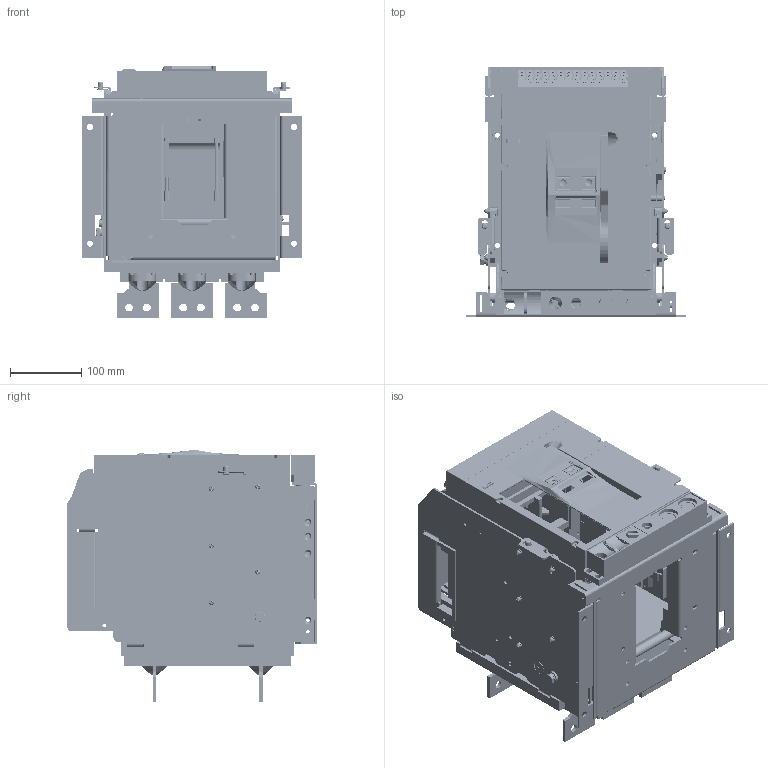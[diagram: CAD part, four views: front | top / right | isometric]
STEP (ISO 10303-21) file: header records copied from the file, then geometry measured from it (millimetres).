
FILE_DESCRIPTION((''),'2;1');
FILE_NAME('NA8G-1600-630-DO-3P-H_ASM','2019-05-21T16:51:32',('lcc'),(''),'CREO PARAMETRIC BY PTC INC, 2018020','CREO PARAMETRIC BY PTC INC, 2018020','');
FILE_SCHEMA(('CONFIG_CONTROL_DESIGN','SHAPE_APPEARANCE_LAYERS_GROUPS'));
Products named in the file (56): 8-024-504; 8-300-164; 8-141-125; 8-860-349; 8-441-081; 8-200-099; 8-236-064; 5-203-058_ASM; 8-145-063; 8-211-092; 5-024-172_ASM; 8-050-244; 8-960-058; 8-960-056; 8-960-057; 8-960-060; 8-960-059; 8-127-020; 8-125-057; 8-123-120; 8-261-001; 8-125-001; 8-210-176; 5-124-010_ASM; 8-233-301; GBT97_1-4; GBT93-4; GBT818-M4X10; GBT845-ST4_2X9_5C; GBT6170-M8; 5-050-095_ASM; 8-050-243; 8-261-002; 8-125-002; 5-124-011_ASM; GBT97_1-8; GBT93-8; GBT5783-M8X16; 5-050-096_ASM; 8-300-166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
Assembly tree (108 placements, depth 4):
  NA8G-1600-630-DO-3P-H_ASM
    5-024-172_ASM
      8-024-504
      8-300-164
      8-141-125
      8-860-349
      8-441-081
      5-203-058_ASM
        8-200-099
        8-236-064  x2
      8-145-063  x2
      8-211-092
    5-050-095_ASM
      8-050-244
      8-960-058
      8-960-056
      8-960-057
      8-960-060
      8-960-059
      8-127-020
      8-125-057
      8-123-120
      5-124-010_ASM
        8-261-001
        8-125-001
        8-210-176
      8-233-301
      GBT97_1-4  x5
      GBT93-4  x5
      GBT818-M4X10  x5
      GBT845-ST4_2X9_5C
      GBT6170-M8  x2
    5-050-096_ASM
      8-050-243
      8-125-057
      8-123-120
      5-124-011_ASM
        8-261-002
        8-125-002
        8-210-176
      GBT6170-M8  x2
      GBT97_1-4  x5
      GBT93-4  x5
      GBT818-M4X10  x5
      GBT97_1-8  x2
      GBT93-8
      GBT5783-M8X16
    8-300-166
    8-015-021
    8ZTD-043-780
    8ZTD-043-781
    8-300-162-2
    8-253-348
    8-253-349
    8-253-309
    5-235-147
    1600-DIJIA-3P
    1600-DUANZI-CTS_ASM
      8ZTD-064-138
      8ZTD-024-689  x14
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Bounding box: 308 x 351 x 355 mm (x, y, z)
Volume: 6663997.9 mm3; surface area: 1903165 mm2
Topology: 101 solids, 147 shells, 7094 faces, 19404 edges, 12760 vertices
Faces by surface type: plane 5210, cylinder 1645, cone 102, bspline 62, torus 42, sphere 32, extrusion 1
Entity records: 175966 total; most frequent: CARTESIAN_POINT 27078, ORIENTED_EDGE 24322, DIRECTION 23937, EDGE_CURVE 12172, PRESENTATION_STYLE_ASSIGNMENT 10146, STYLED_ITEM 10106, CURVE_STYLE 9981, VECTOR 9377
